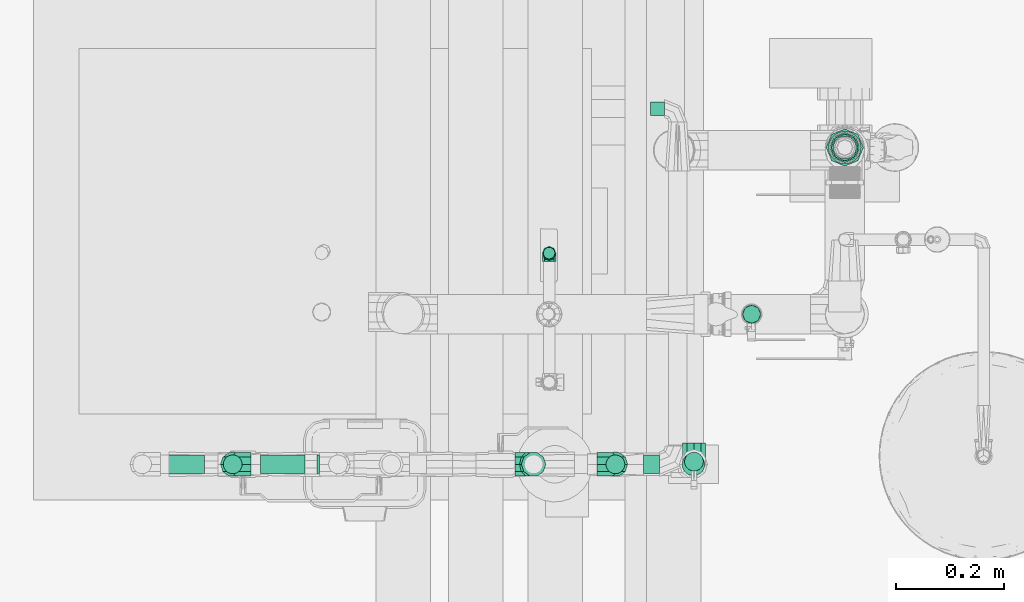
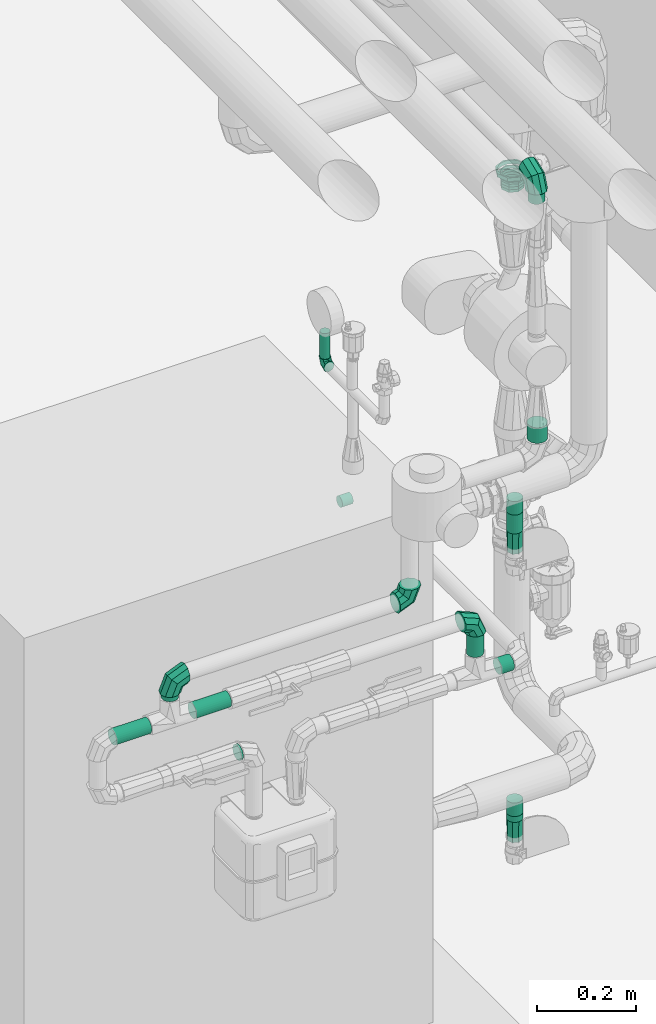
# One storey, part 28 of 43: 15 flow fittings, 12 flow segments.
"""IFC2X3 building model written with IfcOpenShell, lengths in millimetres."""

from ifc_helpers import new_model, entity, si_unit, converted_unit, derived_unit, direction, frame, frame_2d, origin, origin_2d_with_axis, place, context, subcontext, project, spatial, polyline, circle_curve, parameter, trimmed, segment, composite_curve, circle, outline, extrude, faceted_brep, source, transform, mapped, material, material_list, type_object, type_shapes, element, save


model = new_model("IFC2X3")

# Units and contexts
model_context = context("Model", 3, precision=0.01, world=origin(), true_north=direction((6.123031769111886e-17, 1.0)))
body_context = subcontext(model_context, "Body", "Model", "MODEL_VIEW")
ifc_project = project(units=[si_unit("LENGTHUNIT", "METRE", prefix="MILLI"), si_unit("AREAUNIT", "SQUARE_METRE"), si_unit("VOLUMEUNIT", "CUBIC_METRE"), converted_unit("PLANEANGLEUNIT", "DEGREE", entity("IfcRatioMeasure", 0.017453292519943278), si_unit("PLANEANGLEUNIT", "RADIAN"), dimensions=[0, 0, 0, 0, 0, 0, 0]), si_unit("MASSUNIT", "GRAM", prefix="KILO"), derived_unit("MASSDENSITYUNIT", [(si_unit("MASSUNIT", "GRAM", prefix="KILO"), 1), (si_unit("LENGTHUNIT", "METRE"), -3)]), derived_unit("MOMENTOFINERTIAUNIT", [(si_unit("LENGTHUNIT", "METRE"), 4)]), si_unit("TIMEUNIT", "SECOND"), si_unit("FREQUENCYUNIT", "HERTZ"), si_unit("THERMODYNAMICTEMPERATUREUNIT", "DEGREE_CELSIUS"), derived_unit("THERMALTRANSMITTANCEUNIT", [(si_unit("MASSUNIT", "GRAM", prefix="KILO"), 1), (si_unit("THERMODYNAMICTEMPERATUREUNIT", "KELVIN"), -1), (si_unit("TIMEUNIT", "SECOND"), -3)]), derived_unit("VOLUMETRICFLOWRATEUNIT", [(si_unit("LENGTHUNIT", "METRE"), 3), (si_unit("TIMEUNIT", "SECOND"), -1)]), derived_unit("MASSFLOWRATEUNIT", [(si_unit("MASSUNIT", "GRAM", prefix="KILO"), 1), (si_unit("TIMEUNIT", "SECOND"), -1)]), derived_unit("ROTATIONALFREQUENCYUNIT", [(si_unit("TIMEUNIT", "SECOND"), -1)]), si_unit("ELECTRICCURRENTUNIT", "AMPERE"), si_unit("ELECTRICVOLTAGEUNIT", "VOLT"), si_unit("POWERUNIT", "WATT"), si_unit("FORCEUNIT", "NEWTON", prefix="KILO"), si_unit("ILLUMINANCEUNIT", "LUX"), si_unit("LUMINOUSFLUXUNIT", "LUMEN"), si_unit("LUMINOUSINTENSITYUNIT", "CANDELA"), derived_unit("USERDEFINED", [(si_unit("MASSUNIT", "GRAM", prefix="KILO"), -1), (si_unit("LENGTHUNIT", "METRE"), -2), (si_unit("TIMEUNIT", "SECOND"), 3), (si_unit("LUMINOUSFLUXUNIT", "LUMEN"), 1)]), derived_unit("SOUNDPOWERUNIT", [(si_unit("MASSUNIT", "GRAM", prefix="KILO"), 1), (si_unit("LENGTHUNIT", "METRE"), 2), (si_unit("TIMEUNIT", "SECOND"), -3)]), derived_unit("SOUNDPRESSUREUNIT", [(si_unit("MASSUNIT", "GRAM", prefix="KILO"), 1), (si_unit("LENGTHUNIT", "METRE"), -1), (si_unit("TIMEUNIT", "SECOND"), -2)]), derived_unit("LINEARVELOCITYUNIT", [(si_unit("LENGTHUNIT", "METRE"), 1), (si_unit("TIMEUNIT", "SECOND"), -1)]), si_unit("PRESSUREUNIT", "PASCAL"), derived_unit("USERDEFINED", [(si_unit("LENGTHUNIT", "METRE"), -2), (si_unit("MASSUNIT", "GRAM", prefix="KILO"), 1), (si_unit("TIMEUNIT", "SECOND"), -2)]), derived_unit("LINEARFORCEUNIT", [(si_unit("MASSUNIT", "GRAM", prefix="KILO"), 1), (si_unit("LENGTHUNIT", "METRE"), 1), (si_unit("TIMEUNIT", "SECOND"), -2), (si_unit("LENGTHUNIT", "METRE"), -1)]), derived_unit("PLANARFORCEUNIT", [(si_unit("MASSUNIT", "GRAM", prefix="KILO"), 1), (si_unit("LENGTHUNIT", "METRE"), 1), (si_unit("TIMEUNIT", "SECOND"), -2), (si_unit("LENGTHUNIT", "METRE"), -2)])], contexts=[model_context])

# Site, building, storey
site_placement = place(None, origin())
site = spatial("IfcSite", under=ifc_project, at=site_placement, Name="Default", CompositionType="ELEMENT")
building_placement = place(site_placement, origin())
building = spatial("IfcBuilding", under=site, at=building_placement, CompositionType="ELEMENT")
storey_placement = place(building_placement, frame((0.0, 0.0, 270.0)))
storey = spatial("IfcBuildingStorey", under=building, at=storey_placement, Name="Niveau 0", CompositionType="ELEMENT", Elevation=270.0)

# Flow segments
pipe_segment_type_1 = type_object("IfcPipeSegmentType", Name="Canalisation:tube acier", PredefinedType="NOTDEFINED")
flow_segment_1_placement = place(storey_placement, origin())
element("IfcFlowSegment", 1, at=flow_segment_1_placement, inside=storey, type_object=pipe_segment_type_1, Name="Canalisation:tube acier", ObjectType="Canalisation:tube acier", context=body_context, shape_type="SweptSolid", body=[
    extrude(circle(Radius=10.668, at=frame_2d((0.0, 1.0828671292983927e-12), x_axis=(1.0, 0.0))), frame((-2231.7732561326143, -9501.311926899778, 1707.5815748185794), z_axis=(0.0, 0.0, 1.0), x_axis=(-1.0, 0.0, 0.0)), (0.0, 0.0, 1.0), 63.15446197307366),
])
flow_segment_2_placement = place(storey_placement, origin())
element("IfcFlowSegment", 2, at=flow_segment_2_placement, inside=storey, type_object=pipe_segment_type_1, Name="Canalisation:tube acier", ObjectType="Canalisation:tube acier", context=body_context, shape_type="SweptSolid", body=[
    extrude(circle(Radius=16.7005, at=origin_2d_with_axis()), frame((-1855.2269436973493, -9615.0, 507.5081288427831)), (0.0, 0.0, 1.0), 14.479371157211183),
])
flow_segment_3_placement = place(storey_placement, origin())
element("IfcFlowSegment", 3, at=flow_segment_3_placement, inside=storey, type_object=pipe_segment_type_1, Name="Canalisation:tube acier", ObjectType="Canalisation:tube acier", context=body_context, shape_type="SweptSolid", body=[
    extrude(circle(Radius=16.7005, at=origin_2d_with_axis()), frame((-1855.2269436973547, -9615.0, 1218.4874999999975)), (0.0, 0.0, 1.0), 46.49999999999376),
])

# Flow fittings
ifc_material_1 = material(Name="<Unnamed>")
ifc_material_list_1 = material_list([ifc_material_1, ifc_material_1])
pipe_fitting_type_1 = type_object("IfcPipeFittingType", Name="Coude - Générique:Standard", PredefinedType="NOTDEFINED", material=ifc_material_list_1)
shared_shape_1 = source(origin(), body_context, "Body", "Brep", [
    faceted_brep([(4.326975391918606, -4.326975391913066, 0.0), (1.6948585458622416, -1.6948585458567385, -8.986609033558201), (8.986609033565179, 15.908984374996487, -8.986609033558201), (12.70898437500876, 15.908984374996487, 0.0), (-4.659633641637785, 4.659633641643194, -12.708984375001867), (0.0, 15.908984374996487, -12.708984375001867), (-11.014125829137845, 11.014125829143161, -8.986609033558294), (-8.986609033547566, 15.908984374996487, -8.986609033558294), (-13.646242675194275, 13.646242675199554, 0.0), (-12.708984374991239, 15.908984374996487, 0.0), (-11.014125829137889, 11.014125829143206, 8.986609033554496), (-8.986609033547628, 15.908984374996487, 8.986609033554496), (-4.6596336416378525, 4.6596336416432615, 12.708984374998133), (0.0, 15.908984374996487, 12.708984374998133), (1.6948585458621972, -1.6948585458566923, 8.986609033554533), (8.986609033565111, 15.908984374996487, 8.986609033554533), (-15.908984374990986, -12.708984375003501, 0.0), (-15.908984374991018, -8.98660903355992, -8.986609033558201), (-15.9089843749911, 0.0, -12.708984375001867), (-15.908984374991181, 8.986609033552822, -8.986609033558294), (-15.908984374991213, 12.708984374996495, 0.0), (-15.908984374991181, 8.986609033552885, 8.986609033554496), (-15.9089843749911, 0.0, 12.708984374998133), (-15.908984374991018, -8.986609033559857, 8.986609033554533)], [[[0, 1, 2, 3]], [[1, 4, 5, 2]], [[4, 6, 7, 5]], [[6, 8, 9, 7]], [[8, 10, 11, 9]], [[10, 12, 13, 11]], [[12, 14, 15, 13]], [[14, 0, 3, 15]], [[16, 17, 1, 0]], [[17, 18, 4, 1]], [[18, 19, 6, 4]], [[19, 20, 8, 6]], [[20, 21, 10, 8]], [[21, 22, 12, 10]], [[22, 23, 14, 12]], [[23, 16, 0, 14]], [[3, 2, 5, 7, 9, 11, 13, 15]], [[23, 22, 21, 20, 19, 18, 17, 16]]]),
])
type_shapes(pipe_fitting_type_1, [shared_shape_1])
flow_fitting_1_placement = place(storey_placement, frame((-2231.7732561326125, -9501.311926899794, 1691.6725904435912), z_axis=(1.0, 0.0, 0.0), x_axis=(0.0, 1.0, 0.0)))
element("IfcFlowFitting", 4, at=flow_fitting_1_placement, inside=storey, type_object=pipe_fitting_type_1, material=ifc_material_1, Name="Coude - Générique:Standard", ObjectType="Coude - Générique:Standard", context=body_context, shape_type="MappedRepresentation", body=[
    mapped(shared_shape_1, transform((0.0, 0.0, 0.0), scale=1.0)),
])
pipe_fitting_type_2 = type_object("IfcPipeFittingType", Name="Transformation - Générique:Standard", PredefinedType="NOTDEFINED", material=ifc_material_1)
shared_shape_2 = source(origin(), body_context, "Body", "Brep", [
    faceted_brep([(51.0, 16.20898437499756, 0.0), (51.0, 15.022108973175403, 2.865370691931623), (51.0, 13.835233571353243, 5.7307413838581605), (51.0, 12.648358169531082, 8.5961120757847), (51.0, 11.46148276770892, 11.461482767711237), (51.0, 8.596112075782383, 12.648358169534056), (51.0, 5.730741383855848, 13.835233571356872), (51.0, 2.8653706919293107, 15.022108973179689), (51.0, 0.0, 16.208984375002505), (51.0, -2.8653706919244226, 15.022108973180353), (51.0, -5.730741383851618, 13.8352335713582), (51.0, -8.596112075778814, 12.648358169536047), (51.0, -11.461482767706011, 11.461482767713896), (51.0, -12.648358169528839, 8.596112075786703), (51.0, -13.835233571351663, 5.730741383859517), (51.0, -15.02210897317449, 2.86537069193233), (51.0, -16.20898437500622, 0.0), (51.0, -15.022108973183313, -2.865370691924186), (51.0, -13.835233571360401, -5.730741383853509), (51.0, -12.64835816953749, -8.596112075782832), (51.0, -11.46148276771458, -11.461482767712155), (51.0, -8.596112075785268, -12.648358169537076), (51.0, -5.730741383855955, -13.835233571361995), (51.0, -2.8653706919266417, -15.022108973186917), (51.0, 0.0, -16.208984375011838), (51.0, 2.8653706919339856, -15.022108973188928), (51.0, 5.7307413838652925, -13.835233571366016), (51.0, 8.5961120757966, -12.648358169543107), (51.0, 11.46148276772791, -11.4614827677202), (51.0, 12.64835816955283, -8.596112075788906), (51.0, 13.835233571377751, -5.73074138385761), (51.0, 15.022108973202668, -2.865370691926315), (0.0, 11.808683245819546, 11.808683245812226), (0.0, 13.031512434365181, 8.85651243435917), (0.0, 14.254341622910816, 5.904341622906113), (0.0, 15.19070999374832, 3.643748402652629), (0.0, 16.700000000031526, 0.0), (0.0, 15.19070999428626, -3.643748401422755), (0.0, 13.681419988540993, -7.287496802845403), (0.0, 11.808683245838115, -11.808683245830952), (0.0, 8.856512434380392, -13.031512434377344), (0.0, 5.904341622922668, -14.254341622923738), (0.0, 2.952170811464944, -15.477170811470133), (0.0, 0.0, -16.700000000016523), (0.0, -2.9521708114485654, -15.477170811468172), (0.0, -5.904341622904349, -14.254341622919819), (0.0, -8.856512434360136, -13.031512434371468), (0.0, -11.808683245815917, -11.808683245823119), (0.0, -13.03151243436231, -8.856512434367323), (0.0, -14.254341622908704, -5.904341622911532), (0.0, -15.19070999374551, -3.6437484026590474), (0.0, -16.699999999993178, 0.0), (0.0, -15.190709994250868, 3.6437484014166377), (0.0, -13.681419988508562, 7.287496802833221), (0.0, -11.808683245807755, 11.808683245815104), (0.0, -8.856512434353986, 13.031512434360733), (0.0, -5.904341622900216, 14.25434162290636), (0.0, -2.9521708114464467, 15.477170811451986), (0.0, 0.0, 16.699999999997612), (0.0, 2.9521708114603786, 15.477170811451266), (0.0, 5.904341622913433, 14.25434162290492), (0.0, 8.856512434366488, 13.031512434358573)], [[[0, 1, 2, 3, 4, 5, 6, 7, 8, 9, 10, 11, 12, 13, 14, 15, 16, 17, 18, 19, 20, 21, 22, 23, 24, 25, 26, 27, 28, 29, 30, 31]], [[32, 33, 34, 35, 36, 37, 38, 39, 40, 41, 42, 43, 44, 45, 46, 47, 48, 49, 50, 51, 52, 53, 54, 55, 56, 57, 58, 59, 60, 61]], [[39, 38, 37, 36, 0, 31, 30, 29, 28]], [[47, 20, 19, 18, 17, 16, 51, 50, 49, 48]], [[25, 24, 43, 42, 41, 40, 39, 28, 27, 26]], [[44, 43, 24, 23, 22, 21, 20, 47, 46, 45]], [[54, 53, 52, 51, 16, 15, 14, 13, 12]], [[32, 4, 3, 2, 1, 0, 36, 35, 34, 33]], [[9, 8, 58, 57, 56, 55, 54, 12, 11, 10]], [[59, 58, 8, 7, 6, 5, 4, 32, 61, 60]]]),
])
type_shapes(pipe_fitting_type_2, [shared_shape_2])
for number, where, z_axis, x_axis in (
    (5, (-1855.2269436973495, -9615.0, 507.50812884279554), (0.0, -1.0, 0.0), (0.0, 0.0, -1.0)),
    (6, (-1855.2269436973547, -9615.0, 1218.48750000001), (0.0, -1.0, 0.0), (0.0, 0.0, -1.0)),
):
    element("IfcFlowFitting", number, at=place(storey_placement, frame(where, z_axis=z_axis, x_axis=x_axis)), inside=storey, type_object=pipe_fitting_type_2, material=ifc_material_1, Name="Transformation - Générique:Standard", ObjectType="Transformation - Générique:Standard", context=body_context, shape_type="MappedRepresentation", body=[
        mapped(shared_shape_2, transform((0.0, 0.0, 0.0), scale=1.0)),
    ])
pipe_fitting_type_3 = type_object("IfcPipeFittingType", Name="Piquage Acier Noir droit:Longueur = 25", PredefinedType="NOTDEFINED", material=ifc_material_1)
shared_shape_3 = source(origin(), body_context, "Body", "Brep", [
    faceted_brep([(-8.302339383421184, -4.361100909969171, -16.275850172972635), (-8.30233938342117, -8.424999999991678, -14.592528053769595), (-8.302339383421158, -11.914749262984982, -11.914749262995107), (-8.302339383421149, -14.592528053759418, -8.425000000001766), (-8.302339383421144, -16.275850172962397, -4.361100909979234), (-8.302339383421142, -16.849999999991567, 0.0), (-8.302339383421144, -16.275850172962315, 4.361100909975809), (-8.302339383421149, -14.592528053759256, 8.42499999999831), (-8.302339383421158, -11.914749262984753, 11.9147492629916), (-8.30233938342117, -8.4249999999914, 14.59252805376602), (-8.302339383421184, -4.361100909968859, 16.275850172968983), (-8.302339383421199, 0.0, 16.849999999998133), (-8.302339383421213, 4.361100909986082, 16.275850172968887), (-8.302339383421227, 8.425000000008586, 14.59252805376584), (-8.30233938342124, 11.914749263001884, 11.914749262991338), (-8.302339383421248, 14.592528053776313, 8.424999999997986), (-8.302339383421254, 16.27585017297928, 4.361100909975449), (-8.302339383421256, 16.850000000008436, 0.0), (-8.302339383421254, 16.275850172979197, -4.3611009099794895), (-8.302339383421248, 14.592528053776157, -8.425000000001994), (-8.30233938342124, 11.914749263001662, -11.914749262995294), (-8.302339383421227, 8.425000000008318, -14.592528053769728), (-8.302339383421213, 4.361100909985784, -16.275850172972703), (-8.302339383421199, 0.0, -16.85000000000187), (0.0, 16.850000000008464, 0.0), (0.0, 16.275850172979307, 4.361100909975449), (25.0, 16.27585017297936, 4.361100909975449), (25.0, 16.850000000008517, 0.0), (0.0, 14.59252805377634, 8.424999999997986), (25.0, 14.592528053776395, 8.424999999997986), (0.0, 8.425000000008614, 14.59252805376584), (25.0, 8.425000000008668, 14.59252805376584), (25.0, 11.914749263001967, 11.914749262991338), (0.0, 11.914749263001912, 11.914749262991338), (0.0, 4.361100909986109, 16.275850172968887), (25.0, 4.361100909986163, 16.275850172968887), (0.0, 0.0, 16.849999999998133), (25.0, 0.0, 16.849999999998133), (0.0, -4.3611009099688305, 16.275850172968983), (0.0, -8.424999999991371, 14.59252805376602), (25.0, -8.424999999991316, 14.59252805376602), (25.0, -4.361100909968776, 16.275850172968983), (0.0, -11.914749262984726, 11.9147492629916), (25.0, -11.914749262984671, 11.9147492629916), (0.0, -16.275850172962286, 4.361100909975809), (25.0, -16.27585017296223, 4.361100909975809), (25.0, -14.592528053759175, 8.42499999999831), (0.0, -14.59252805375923, 8.42499999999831), (0.0, -16.84999999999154, 0.0), (25.0, -16.849999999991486, 0.0), (0.0, -16.27585017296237, -4.361100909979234), (25.0, -16.275850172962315, -4.361100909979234), (0.0, -14.592528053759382, -8.425000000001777), (25.0, -14.592528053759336, -8.425000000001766), (0.0, -8.42499999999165, -14.592528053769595), (25.0, -8.424999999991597, -14.592528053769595), (25.0, -11.914749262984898, -11.914749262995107), (0.0, -11.914749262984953, -11.914749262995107), (0.0, -4.361100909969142, -16.275850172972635), (25.0, -4.361100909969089, -16.275850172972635), (0.0, 0.0, -16.85000000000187), (25.0, 0.0, -16.85000000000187), (0.0, 4.3611009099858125, -16.275850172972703), (0.0, 8.425000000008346, -14.592528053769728), (25.0, 8.425000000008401, -14.592528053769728), (25.0, 4.361100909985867, -16.275850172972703), (0.0, 11.91474926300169, -11.914749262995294), (25.0, 11.914749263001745, -11.914749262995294), (0.0, 16.275850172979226, -4.3611009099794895), (25.0, 16.27585017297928, -4.3611009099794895), (25.0, 14.592528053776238, -8.425000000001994), (0.0, 14.592528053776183, -8.425000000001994)], [[[0, 1, 2, 3, 4, 5, 6, 7, 8, 9, 10, 11, 12, 13, 14, 15, 16, 17, 18, 19, 20, 21, 22, 23]], [[24, 17, 16, 25, 26, 27]], [[25, 16, 15, 28, 29, 26]], [[30, 31, 32, 33, 14, 13]], [[15, 14, 33, 32, 29, 28]], [[34, 35, 31, 30, 13, 12]], [[11, 36, 37, 35, 34, 12]], [[38, 10, 9, 39, 40, 41]], [[39, 9, 8, 42, 43, 40]], [[44, 45, 46, 47, 7, 6]], [[8, 7, 47, 46, 43, 42]], [[48, 49, 45, 44, 6, 5]], [[38, 41, 37, 36, 11, 10]], [[48, 5, 4, 50, 51, 49]], [[50, 4, 3, 52, 53, 51]], [[54, 55, 56, 57, 2, 1]], [[3, 2, 57, 56, 53, 52]], [[58, 59, 55, 54, 1, 0]], [[23, 60, 61, 59, 58, 0]], [[62, 22, 21, 63, 64, 65]], [[63, 21, 20, 66, 67, 64]], [[68, 69, 70, 71, 19, 18]], [[20, 19, 71, 70, 67, 66]], [[24, 27, 69, 68, 18, 17]], [[62, 65, 61, 60, 23, 22]], [[61, 65, 64, 67, 70, 69, 27, 26, 29, 32, 31, 35, 37, 41, 40, 43, 46, 45, 49, 51, 53, 56, 55, 59]]]),
])
type_shapes(pipe_fitting_type_3, [shared_shape_3])
for number, where, z_axis, x_axis in (
    (7, (-1855.2269436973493, -9615.0, 546.987500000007), (0.0, -1.0, 0.0), (0.0, 0.0, -1.0)),
    (8, (-1855.2269436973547, -9615.0, 1289.987500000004), (0.0, -1.0, 0.0), (0.0, 0.0, -1.0)),
):
    element("IfcFlowFitting", number, at=place(storey_placement, frame(where, z_axis=z_axis, x_axis=x_axis)), inside=storey, type_object=pipe_fitting_type_3, material=ifc_material_1, Name="Piquage Acier Noir droit:Longueur = 25", ObjectType="Piquage Acier Noir droit:Longueur = 25", context=body_context, shape_type="MappedRepresentation", body=[
        mapped(shared_shape_3, transform((0.0, 0.0, 0.0), scale=1.0)),
    ])
ifc_material_2 = material(Name="Copper Conex")
pipe_fitting_type_4 = type_object("IfcPipeFittingType", Name="Conex-Series 8000_8280:8280 010000000", PredefinedType="NOTDEFINED", material=ifc_material_2)
shared_shape_4 = source(origin(), body_context, "Body", "SweptSolid", [
    extrude(outline(polyline([(-9.526911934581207, -23.0), (9.526911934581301, -23.0), (23.0, -9.526911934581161), (23.0, 9.526911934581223), (9.526911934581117, 23.0), (-9.52691193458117, 23.0), (-23.0, 9.526911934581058), (-23.0, -9.526911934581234), (-9.526911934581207, -23.0)]), holes=[composite_curve([segment(trimmed(circle_curve(frame_2d((0.0, 0.0), x_axis=(-0.38268343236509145, 0.923879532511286)), 20.955), [parameter(3.053332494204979e-13)], [parameter(180.0)], True, "PARAMETER"), False, "CONTINUOUS"), segment(trimmed(circle_curve(frame_2d((0.0, 0.0), x_axis=(-0.38268343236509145, 0.923879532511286)), 20.955), [parameter(179.99999999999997)], [parameter(0.0)], True, "PARAMETER"), False, "CONTINUOUS")], self_intersect=False)]), frame((-3.3500000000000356, 0.0, 0.0), z_axis=(1.0, 0.0, 0.0), x_axis=(0.0, -0.3826834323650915, -0.9238795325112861)), (0.0, 0.0, 1.0), 6.699999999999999),
])
type_shapes(pipe_fitting_type_4, [shared_shape_4])
for number, where, z_axis, x_axis in (
    (9, (-1682.0, -9305.0, 1819.7482340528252), (0.0, 1.0, 0.0), (0.0, 0.0, 1.0)),
    (10, (-1682.0, -9305.0, 1826.4482340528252), (0.0, -1.0, 0.0), (0.0, 0.0, 1.0)),
    (11, (-1682.0, -9305.0, 1833.1482340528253), (0.0, 1.0, 0.0), (0.0, 0.0, 1.0)),
    (12, (-1682.0, -9305.0, 1839.8482340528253), (0.0, -1.0, 0.0), (0.0, 0.0, 1.0)),
):
    element("IfcFlowFitting", number, at=place(storey_placement, frame(where, z_axis=z_axis, x_axis=x_axis)), inside=storey, type_object=pipe_fitting_type_4, material=ifc_material_2, Name="Conex-Series 8000_8280:8280 010000000", ObjectType="Conex-Series 8000_8280:8280 010000000", context=body_context, shape_type="MappedRepresentation", body=[
        mapped(shared_shape_4, transform((0.0, 0.0, 0.0), scale=1.0)),
    ])
pipe_fitting_type_5 = type_object("IfcPipeFittingType", Name="Conex-Series 8000_8280:8280 012000000", PredefinedType="NOTDEFINED", material=ifc_material_2)
shared_shape_5 = source(origin(), body_context, "Body", "SweptSolid", [
    extrude(outline(polyline([(-10.769552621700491, -26.0), (10.769552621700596, -26.0), (26.0, -10.76955262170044), (26.0, 10.769552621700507), (10.769552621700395, 26.0), (-10.769552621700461, 26.0), (-26.0, 10.76955262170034), (-26.0, -10.769552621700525), (-10.769552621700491, -26.0)]), holes=[composite_curve([segment(trimmed(circle_curve(frame_2d((0.0, 0.0), x_axis=(-0.38268343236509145, 0.9238795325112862)), 23.9015), [parameter(3.053332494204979e-13)], [parameter(179.99999999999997)], True, "PARAMETER"), False, "CONTINUOUS"), segment(trimmed(circle_curve(frame_2d((0.0, 0.0), x_axis=(-0.38268343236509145, 0.9238795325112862)), 23.9015), [parameter(179.99999999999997)], [parameter(0.0)], True, "PARAMETER"), False, "CONTINUOUS")], self_intersect=False)]), frame((-3.3500000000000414, 0.0, 0.0), z_axis=(1.0, 0.0, 0.0), x_axis=(0.0, -0.38268343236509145, -0.9238795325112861)), (0.0, 0.0, 1.0), 6.699999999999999),
])
type_shapes(pipe_fitting_type_5, [shared_shape_5])
flow_fitting_2_placement = place(storey_placement, frame((-1682.0, -9305.0, 1846.5482340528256), z_axis=(0.0, 1.0, 0.0), x_axis=(0.0, 0.0, 1.0)))
element("IfcFlowFitting", 13, at=flow_fitting_2_placement, inside=storey, type_object=pipe_fitting_type_5, material=ifc_material_2, Name="Conex-Series 8000_8280:8280 012000000", ObjectType="Conex-Series 8000_8280:8280 012000000", context=body_context, shape_type="MappedRepresentation", body=[
    mapped(shared_shape_5, transform((0.0, 0.0, 0.0), scale=1.0)),
])
pipe_fitting_type_6 = type_object("IfcPipeFittingType", Name="Conex-Series 8000_8280:8280 016000000", PredefinedType="NOTDEFINED", material=ifc_material_2)
shared_shape_6 = source(origin(), body_context, "Body", "SweptSolid", [
    extrude(outline(polyline([(-13.254833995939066, -32.0), (13.254833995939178, -32.0), (32.0, -13.254833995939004), (32.0, 13.254833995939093), (13.25483399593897, 32.0), (-13.254833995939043, 32.0), (-32.0, 13.254833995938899), (-32.0, -13.254833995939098), (-13.254833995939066, -32.0)]), holes=[composite_curve([segment(trimmed(circle_curve(frame_2d((0.0, 0.0), x_axis=(-0.38268343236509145, 0.9238795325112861)), 29.807), [parameter(3.053332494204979e-13)], [parameter(180.0)], True, "PARAMETER"), False, "CONTINUOUS"), segment(trimmed(circle_curve(frame_2d((0.0, 0.0), x_axis=(-0.38268343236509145, 0.9238795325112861)), 29.807), [parameter(179.99999999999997)], [parameter(0.0)], True, "PARAMETER"), False, "CONTINUOUS")], self_intersect=False)]), frame((-4.5000000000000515, 0.0, 0.0), z_axis=(1.0, 0.0, 0.0), x_axis=(0.0, -0.38268343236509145, -0.9238795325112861)), (0.0, 0.0, 1.0), 9.000000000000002),
])
type_shapes(pipe_fitting_type_6, [shared_shape_6])
flow_fitting_3_placement = place(storey_placement, frame((-1682.0, -9305.0, 1854.3982340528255), z_axis=(0.0, -1.0, 0.0), x_axis=(0.0, 0.0, 1.0)))
element("IfcFlowFitting", 14, at=flow_fitting_3_placement, inside=storey, type_object=pipe_fitting_type_6, material=ifc_material_2, Name="Conex-Series 8000_8280:8280 016000000", ObjectType="Conex-Series 8000_8280:8280 016000000", context=body_context, shape_type="MappedRepresentation", body=[
    mapped(shared_shape_6, transform((0.0, 0.0, 0.0), scale=1.0)),
])

# Flow segments
pipe_segment_type_2 = type_object("IfcPipeSegmentType", Name="Canalisation:tuyau cuivre", PredefinedType="NOTDEFINED")
flow_segment_4_placement = place(storey_placement, origin())
element("IfcFlowSegment", 15, at=flow_segment_4_placement, inside=storey, type_object=pipe_segment_type_2, Name="Canalisation:tuyau cuivre", ObjectType="Canalisation:tuyau cuivre", context=body_context, shape_type="SweptSolid", body=[
    extrude(circle(Radius=12.5, at=origin_2d_with_axis()), frame((-2043.0, -9232.500000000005, 1120.5000000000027), z_axis=(1.0, 0.0, 0.0), x_axis=(0.0, -1.0, 0.0)), (0.0, 0.0, 1.0), 25.399990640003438),
])
flow_segment_5_placement = place(storey_placement, origin())
element("IfcFlowSegment", 16, at=flow_segment_5_placement, inside=storey, type_object=pipe_segment_type_2, Name="Canalisation:tuyau cuivre", ObjectType="Canalisation:tuyau cuivre", context=body_context, shape_type="SweptSolid", body=[
    extrude(circle(Radius=17.5, at=frame_2d((-2.1657342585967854e-12, 0.0), x_axis=(1.0, 0.0))), frame((-2663.5787066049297, -9894.089173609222, 1120.5000000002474), z_axis=(1.0, 0.0, 0.0), x_axis=(0.0, 1.0, 0.0)), (0.0, 0.0, 1.0), 4.955668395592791),
])
flow_segment_6_placement = place(storey_placement, origin())
element("IfcFlowSegment", 17, at=flow_segment_6_placement, inside=storey, type_object=pipe_segment_type_2, Name="Canalisation:tuyau cuivre", ObjectType="Canalisation:tuyau cuivre", context=body_context, shape_type="SweptSolid", body=[
    extrude(circle(Radius=17.5, at=origin_2d_with_axis()), frame((-2108.544331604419, -9894.089173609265, 1172.5359375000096), z_axis=(0.0, 0.0, 1.0), x_axis=(-1.0, 0.0, 0.0)), (0.0, 0.0, 1.0), 53.75234375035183),
])
flow_segment_7_placement = place(storey_placement, origin())
element("IfcFlowSegment", 18, at=flow_segment_7_placement, inside=storey, type_object=pipe_segment_type_2, Name="Canalisation:tuyau cuivre", ObjectType="Canalisation:tuyau cuivre", context=body_context, shape_type="SweptSolid", body=[
    extrude(circle(Radius=17.5, at=frame_2d((6.497202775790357e-12, 2.707167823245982e-13), x_axis=(1.0, 0.0))), frame((-2056.5083941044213, -9894.089173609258, 1120.5000000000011), z_axis=(1.0, 0.0, 0.0), x_axis=(0.0, 1.0, 0.0)), (0.0, 0.0, 1.0), 29.69666599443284),
])
flow_segment_8_placement = place(storey_placement, origin())
element("IfcFlowSegment", 19, at=flow_segment_8_placement, inside=storey, type_object=pipe_segment_type_2, Name="Canalisation:tuyau cuivre", ObjectType="Canalisation:tuyau cuivre", context=body_context, shape_type="SweptSolid", body=[
    extrude(circle(Radius=17.5, at=origin_2d_with_axis()), frame((-2768.143940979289, -9894.089173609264, 1260.500000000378), z_axis=(1.0, 0.0, 0.0), x_axis=(0.0, -1.0, 0.0)), (0.0, 0.0, 1.0), 82.11679687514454),
])
flow_segment_9_placement = place(storey_placement, origin())
element("IfcFlowSegment", 20, at=flow_segment_9_placement, inside=storey, type_object=pipe_segment_type_2, Name="Canalisation:tuyau cuivre", ObjectType="Canalisation:tuyau cuivre", context=body_context, shape_type="SweptSolid", body=[
    extrude(circle(Radius=17.5, at=origin_2d_with_axis()), frame((-1962.4830858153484, -9889.089418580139, 2234.947039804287)), (0.0, 0.0, 1.0), 26.37686580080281),
])
flow_segment_10_placement = place(storey_placement, origin())
element("IfcFlowSegment", 21, at=flow_segment_10_placement, inside=storey, type_object=pipe_segment_type_2, Name="Canalisation:tuyau cuivre", ObjectType="Canalisation:tuyau cuivre", context=body_context, shape_type="SweptSolid", body=[
    extrude(circle(Radius=21.0, at=origin_2d_with_axis()), frame((-1963.4875000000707, -9894.089173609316, 1651.8315063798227)), (0.0, 0.0, 1.0), 38.34946615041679),
])
flow_segment_11_placement = place(storey_placement, origin())
element("IfcFlowSegment", 22, at=flow_segment_11_placement, inside=storey, type_object=pipe_segment_type_2, Name="Canalisation:tuyau cuivre", ObjectType="Canalisation:tuyau cuivre", context=body_context, shape_type="SweptSolid", body=[
    extrude(circle(Radius=17.5, at=origin_2d_with_axis()), frame((-2820.179878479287, -9894.089173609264, 1312.5359375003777), z_axis=(0.0, 0.0, 1.0), x_axis=(-1.0, 0.0, 0.0)), (0.0, 0.0, 1.0), 13.752343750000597),
])
flow_segment_12_placement = place(storey_placement, origin())
element("IfcFlowSegment", 23, at=flow_segment_12_placement, inside=storey, type_object=pipe_segment_type_2, Name="Canalisation:tuyau cuivre", ObjectType="Canalisation:tuyau cuivre", context=body_context, shape_type="SweptSolid", body=[
    extrude(circle(Radius=17.5, at=origin_2d_with_axis()), frame((-2954.3326128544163, -9894.089173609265, 1260.5000000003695), z_axis=(1.0, 0.0, 0.0), x_axis=(0.0, -1.0, 0.0)), (0.0, 0.0, 1.0), 82.11679687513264),
])

# Flow fittings
ifc_material_list_2 = material_list([ifc_material_1, ifc_material_1])
pipe_fitting_type_7 = type_object("IfcPipeFittingType", Name="Coude - Générique:Standard", PredefinedType="NOTDEFINED", material=ifc_material_list_2)
shared_shape_7 = source(origin(), body_context, "Body", "Brep", [
    faceted_brep([(6.037296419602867, -6.0372964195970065, 0.0), (2.9705530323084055, -2.970553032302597, -13.348006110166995), (18.371954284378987, 34.21171874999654, -13.348006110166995), (22.70898437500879, 34.21171874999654, 0.0), (-5.0582853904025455, 5.0582853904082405, -21.597527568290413), (7.017462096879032, 34.21171874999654, -21.597527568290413), (-14.982475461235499, 14.982475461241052, -21.597527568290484), (-7.017462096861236, 34.21171874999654, -21.597527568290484), (-23.011313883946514, 23.011313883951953, -13.348006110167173), (-18.37195428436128, 34.21171874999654, -13.348006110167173), (-26.078057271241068, 26.078057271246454, 0.0), (-22.708984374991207, 34.21171874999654, 0.0), (-23.011313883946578, 23.011313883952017, 13.348006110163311), (-18.371954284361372, 34.21171874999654, 13.348006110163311), (-14.98247546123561, 14.982475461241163, 21.59752756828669), (-7.0174620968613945, 34.21171874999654, 21.59752756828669), (-5.058285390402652, 5.058285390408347, 21.59752756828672), (7.017462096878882, 34.21171874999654, 21.59752756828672), (2.9705530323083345, -2.9705530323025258, 13.348006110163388), (18.371954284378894, 34.21171874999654, 13.348006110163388), (-34.21171874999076, -22.708984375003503, 0.0), (-34.21171874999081, -18.371954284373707, -13.348006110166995), (-34.2117187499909, -7.01746209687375, -21.597527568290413), (-34.21171874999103, 7.0174620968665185, -21.597527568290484), (-34.21171874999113, 18.371954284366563, -13.348006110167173), (-34.21171874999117, 22.70898437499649, 0.0), (-34.21171874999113, 18.371954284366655, 13.348006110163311), (-34.21171874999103, 7.0174620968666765, 21.59752756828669), (-34.2117187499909, -7.017462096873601, 21.59752756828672), (-34.21171874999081, -18.371954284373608, 13.348006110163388)], [[[0, 1, 2, 3]], [[1, 4, 5, 2]], [[4, 6, 7, 5]], [[6, 8, 9, 7]], [[8, 10, 11, 9]], [[10, 12, 13, 11]], [[12, 14, 15, 13]], [[14, 16, 17, 15]], [[16, 18, 19, 17]], [[18, 0, 3, 19]], [[20, 21, 1, 0]], [[21, 22, 4, 1]], [[22, 23, 6, 4]], [[23, 24, 8, 6]], [[24, 25, 10, 8]], [[25, 26, 12, 10]], [[26, 27, 14, 12]], [[27, 28, 16, 14]], [[28, 29, 18, 16]], [[29, 20, 0, 18]], [[3, 2, 5, 7, 9, 11, 13, 15, 17, 19]], [[29, 28, 27, 26, 25, 24, 23, 22, 21, 20]]]),
])
type_shapes(pipe_fitting_type_7, [shared_shape_7])
for number, where, z_axis, x_axis in (
    (24, (-1962.4830858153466, -9889.089418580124, 2295.535624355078), (1.0, 0.0, 0.0), (0.0, -1.0, 0.0)),
    (25, (-2108.5443316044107, -9894.089173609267, 1260.500000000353), (0.0, 1.0, 0.0), (1.0, 0.0, 0.0)),
    (26, (-2820.1798784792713, -9894.089173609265, 1360.5000000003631), (0.0, 1.0, 0.0), (0.0, 0.0, 1.0)),
    (27, (-2260.6800119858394, -9894.089173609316, 1360.5000000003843), (0.0, -1.0, 0.0), (1.0, 0.0, 0.0)),
):
    element("IfcFlowFitting", number, at=place(storey_placement, frame(where, z_axis=z_axis, x_axis=x_axis)), inside=storey, type_object=pipe_fitting_type_7, material=ifc_material_1, Name="Coude - Générique:Standard", ObjectType="Coude - Générique:Standard", context=body_context, shape_type="MappedRepresentation", body=[
        mapped(shared_shape_7, transform((0.0, 0.0, 0.0), scale=1.0)),
    ])

save(model, "model.ifc")
